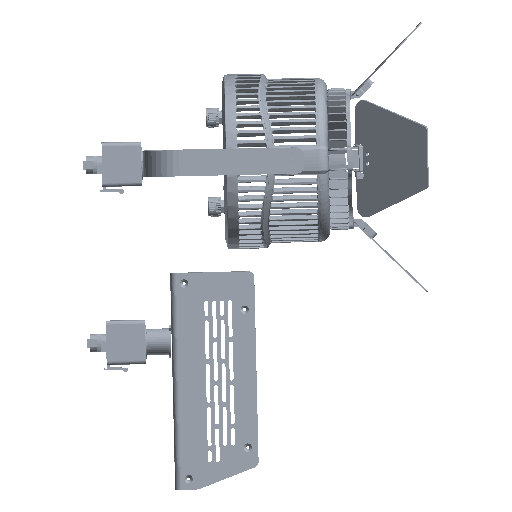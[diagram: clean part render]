
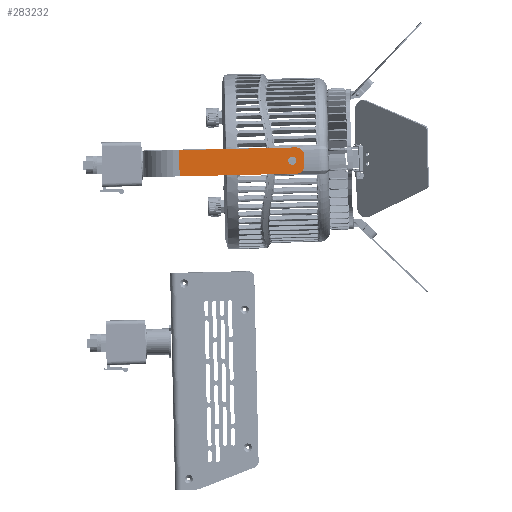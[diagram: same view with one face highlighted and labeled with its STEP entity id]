
A CAD part, left-side view. The second image highlights one B-rep face of the part: STEP entity #283232.
In plain terms, the highlighted planar face has unit normal (-1, 0, -0.003) as drawn and (1, 0, 0) by its records, which use the part's own axes.
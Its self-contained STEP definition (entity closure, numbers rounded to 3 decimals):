
#2362 = DIRECTION ( 'NONE',  ( -1., 0., 0. ) ) ;
#4400 = VERTEX_POINT ( 'NONE', #82337 ) ;
#4650 = CARTESIAN_POINT ( 'NONE',  ( 73.1, 10., 2. ) ) ;
#10385 = EDGE_CURVE ( 'NONE', #296838, #4400, #204488, .T. ) ;
#19842 = CARTESIAN_POINT ( 'NONE',  ( 73.1, 10., -4. ) ) ;
#21636 = CARTESIAN_POINT ( 'NONE',  ( 73.1, 10., -93. ) ) ;
#26706 = DIRECTION ( 'NONE',  ( 0., 0., 1. ) ) ;
#29950 = DIRECTION ( 'NONE',  ( 1., 0., 0. ) ) ;
#31839 = CARTESIAN_POINT ( 'NONE',  ( 73.1, -4., -4. ) ) ;
#32704 = CARTESIAN_POINT ( 'NONE',  ( 73.1, 10., -4. ) ) ;
#36137 = VERTEX_POINT ( 'NONE', #155416 ) ;
#53480 = AXIS2_PLACEMENT_3D ( 'NONE', #31839, #29950, #361272 ) ;
#59973 = CARTESIAN_POINT ( 'NONE',  ( 73.1, -10., -120.5 ) ) ;
#61197 = ORIENTED_EDGE ( 'NONE', *, *, #127826, .T. ) ;
#61743 = DIRECTION ( 'NONE',  ( 1., 0., 0. ) ) ;
#62145 = ORIENTED_EDGE ( 'NONE', *, *, #67284, .T. ) ;
#62379 = DIRECTION ( 'NONE',  ( 0., -1., 0. ) ) ;
#63848 = DIRECTION ( 'NONE',  ( 0., 0., 1. ) ) ;
#67284 = EDGE_CURVE ( 'NONE', #296838, #262535, #198824, .T. ) ;
#75680 = CARTESIAN_POINT ( 'NONE',  ( 73.1, 10., -93. ) ) ;
#78732 = DIRECTION ( 'NONE',  ( -1., 0., 0. ) ) ;
#82337 = CARTESIAN_POINT ( 'NONE',  ( 73.1, -10., -4. ) ) ;
#84096 = CIRCLE ( 'NONE', #127259, 3.1 ) ;
#84176 = CARTESIAN_POINT ( 'NONE',  ( 73.1, 4., 2. ) ) ;
#84419 = CARTESIAN_POINT ( 'NONE',  ( 73.1, 0., -7. ) ) ;
#86644 = EDGE_CURVE ( 'NONE', #174730, #36137, #318853, .T. ) ;
#94391 = CARTESIAN_POINT ( 'NONE',  ( 73.1, 4., -4. ) ) ;
#102271 = DIRECTION ( 'NONE',  ( 0., 0., -1. ) ) ;
#121188 = CIRCLE ( 'NONE', #53480, 6. ) ;
#126312 = EDGE_LOOP ( 'NONE', ( #361353, #62145, #259405, #61197, #177815, #240344 ) ) ;
#127259 = AXIS2_PLACEMENT_3D ( 'NONE', #84419, #78732, #26706 ) ;
#127826 = EDGE_CURVE ( 'NONE', #260624, #174730, #206843, .T. ) ;
#146711 = EDGE_CURVE ( 'NONE', #357922, #196286, #199990, .T. ) ;
#155416 = CARTESIAN_POINT ( 'NONE',  ( 73.1, -4., 2. ) ) ;
#164595 = VECTOR ( 'NONE', #256745, 1000. ) ;
#170308 = VECTOR ( 'NONE', #322118, 1000. ) ;
#174130 = CARTESIAN_POINT ( 'NONE',  ( 73.1, -10., -93. ) ) ;
#174730 = VERTEX_POINT ( 'NONE', #84176 ) ;
#176924 = EDGE_LOOP ( 'NONE', ( #347161, #350595 ) ) ;
#177815 = ORIENTED_EDGE ( 'NONE', *, *, #86644, .T. ) ;
#179737 = CARTESIAN_POINT ( 'NONE',  ( 73.1, 0., -3.9 ) ) ;
#181592 = AXIS2_PLACEMENT_3D ( 'NONE', #358734, #2362, #63848 ) ;
#194776 = FACE_OUTER_BOUND ( 'NONE', #126312, .T. ) ;
#196286 = VERTEX_POINT ( 'NONE', #179737 ) ;
#198824 = LINE ( 'NONE', #21636, #221507 ) ;
#199990 = CIRCLE ( 'NONE', #181592, 3.1 ) ;
#204488 = LINE ( 'NONE', #59973, #170308 ) ;
#206843 = CIRCLE ( 'NONE', #342504, 6. ) ;
#207542 = EDGE_CURVE ( 'NONE', #36137, #4400, #121188, .T. ) ;
#211435 = EDGE_CURVE ( 'NONE', #262535, #260624, #372495, .T. ) ;
#221507 = VECTOR ( 'NONE', #231509, 1000. ) ;
#231509 = DIRECTION ( 'NONE',  ( 0., 1., 0. ) ) ;
#240344 = ORIENTED_EDGE ( 'NONE', *, *, #207542, .T. ) ;
#248573 = EDGE_CURVE ( 'NONE', #196286, #357922, #84096, .T. ) ;
#252535 = DIRECTION ( 'NONE',  ( 1., 0., 0. ) ) ;
#256745 = DIRECTION ( 'NONE',  ( 0., 0., 1. ) ) ;
#259405 = ORIENTED_EDGE ( 'NONE', *, *, #211435, .T. ) ;
#260624 = VERTEX_POINT ( 'NONE', #32704 ) ;
#262535 = VERTEX_POINT ( 'NONE', #75680 ) ;
#279663 = FACE_BOUND ( 'NONE', #176924, .T. ) ;
#281548 = PLANE ( 'NONE',  #378055 ) ;
#283232 = ADVANCED_FACE ( 'NONE', ( #279663, #194776 ), #281548, .T. ) ;
#296838 = VERTEX_POINT ( 'NONE', #174130 ) ;
#300667 = DIRECTION ( 'NONE',  ( 0., 0., -1. ) ) ;
#318853 = LINE ( 'NONE', #4650, #343786 ) ;
#322118 = DIRECTION ( 'NONE',  ( 0., 0., 1. ) ) ;
#325746 = CARTESIAN_POINT ( 'NONE',  ( 73.1, 0., -10.1 ) ) ;
#342504 = AXIS2_PLACEMENT_3D ( 'NONE', #94391, #61743, #300667 ) ;
#343786 = VECTOR ( 'NONE', #62379, 1000. ) ;
#347161 = ORIENTED_EDGE ( 'NONE', *, *, #248573, .T. ) ;
#350595 = ORIENTED_EDGE ( 'NONE', *, *, #146711, .T. ) ;
#357922 = VERTEX_POINT ( 'NONE', #325746 ) ;
#358734 = CARTESIAN_POINT ( 'NONE',  ( 73.1, 0., -7. ) ) ;
#361272 = DIRECTION ( 'NONE',  ( 0., 0., -1. ) ) ;
#361353 = ORIENTED_EDGE ( 'NONE', *, *, #10385, .F. ) ;
#362643 = CARTESIAN_POINT ( 'NONE',  ( 73.1, 10., -120.5 ) ) ;
#372495 = LINE ( 'NONE', #19842, #164595 ) ;
#378055 = AXIS2_PLACEMENT_3D ( 'NONE', #362643, #252535, #102271 ) ;
